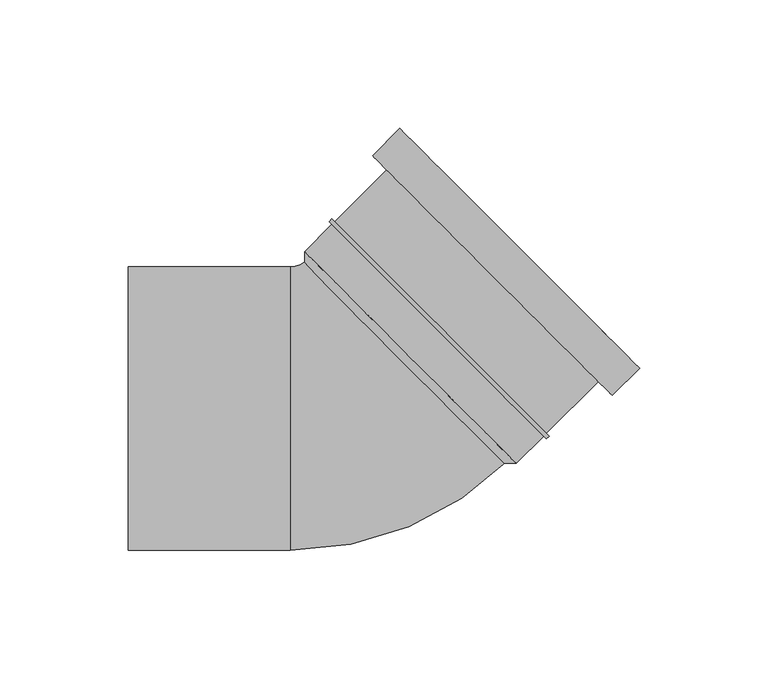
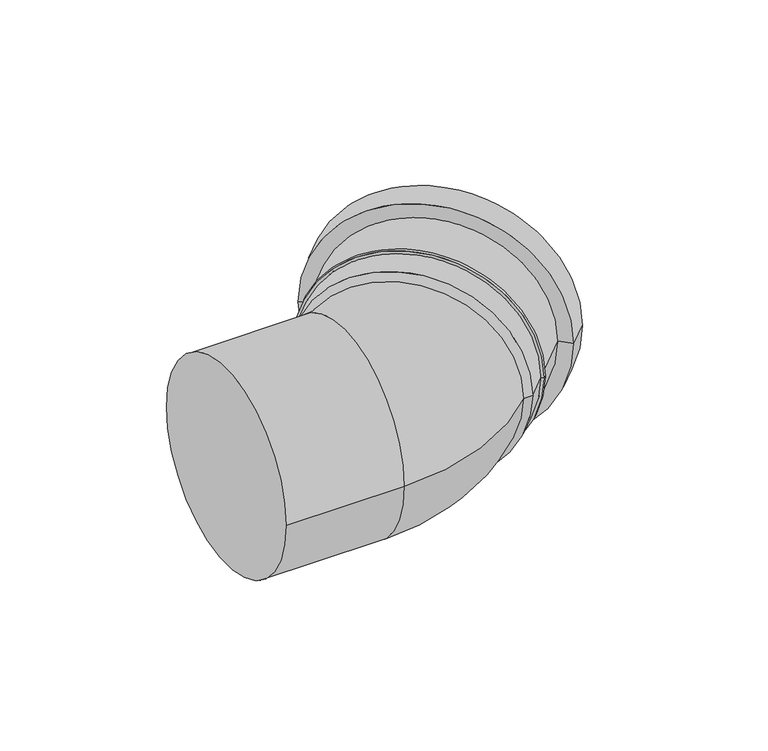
"""IFC4 building model written with IfcOpenShell, lengths in millimetres: pipe fitting geometry, UN_PIF_PP bend S-Sp_SH_PipeLife : Black, var. DN/OD (max. ø125, nested)."""

from ifc_helpers import new_model, si_unit, point, frame, origin, place, context, project, spatial, polyline, circle_curve, ellipse_curve, trimmed, source, transform, mapped, element, save
from ifc_brep_helpers import plane_surface, cylinder_surface, revolved_surface, advanced_brep


def pipe_fitting_78789ada(model_context):
    return source(origin(), model_context, "Body", "AdvancedBrep", [
        advanced_brep(
        [(56.3564105, -21.4253355, 0.0), (-21.4253355, 56.3564105, 0.0), (-21.4253355, 61.0233152, 0.0), (61.0233152, -21.4253355, 0.0), (109.0358657, 15.6977705, 0.0), (15.6977705, 109.0358657, 0.0), (23.4759451, 101.2576911, 0.0), (101.2576911, 23.4759451, 0.0), (98.3939086, 5.0558135, 0.0), (5.0558135, 98.3939086, 0.0), (92.9491864, 10.5005357, 0.0), (10.5005357, 92.9491864, 0.0), (72.7612878, -9.6873629, 0.0), (-9.6873629, 72.7612878, 0.0), (73.8573033, -10.7833784, 0.0), (-10.7833784, 73.8573033, 0.0), (72.7612878, -11.8793939, 0.0), (-11.8793939, 72.7612878, 0.0), (71.6652723, -10.7833784, 0.0), (-10.7833784, 71.6652723, 0.0)],
        [
            (0, 1, circle_curve(frame((17.4655375, 17.4655375, 0.0), z_axis=(0.707106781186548, 0.707106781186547, 0.0), x_axis=(-0.7071067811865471, 0.7071067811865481, 0.0)), 55.0)),
            (1, 2),
            (2, 3, circle_curve(frame((19.7989899, 19.7989899, 0.0), z_axis=(-0.707106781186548, -0.707106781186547, 0.0), x_axis=(-0.7071067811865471, 0.7071067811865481, 0.0)), 58.3)),
            (3, 0),
            (1, 0, circle_curve(frame((17.4655375, 17.4655375, 0.0), z_axis=(0.707106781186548, 0.707106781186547, 0.0), x_axis=(-0.7071067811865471, 0.7071067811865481, 0.0)), 55.0)),
            (3, 2, circle_curve(frame((19.7989899, 19.7989899, 0.0), z_axis=(-0.707106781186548, -0.707106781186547, 0.0), x_axis=(-0.7071067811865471, 0.7071067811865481, 0.0)), 58.3)),
            (4, 5, circle_curve(frame((62.3668181, 62.3668181, 0.0), z_axis=(0.707106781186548, 0.707106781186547, 0.0), x_axis=(-0.7071067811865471, 0.7071067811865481, 0.0)), 66.0)),
            (5, 6),
            (6, 7, circle_curve(frame((62.3668181, 62.3668181, 0.0), z_axis=(-0.707106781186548, -0.707106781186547, 0.0), x_axis=(-0.7071067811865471, 0.7071067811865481, 0.0)), 55.0)),
            (7, 4),
            (5, 4, circle_curve(frame((62.3668181, 62.3668181, 0.0), z_axis=(0.707106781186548, 0.707106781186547, 0.0), x_axis=(-0.7071067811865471, 0.7071067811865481, 0.0)), 66.0)),
            (7, 6, circle_curve(frame((62.3668181, 62.3668181, 0.0), z_axis=(-0.707106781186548, -0.707106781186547, 0.0), x_axis=(-0.7071067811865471, 0.7071067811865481, 0.0)), 55.0)),
            (8, 9, circle_curve(frame((51.724861, 51.724861, 0.0), z_axis=(0.707106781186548, 0.707106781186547, 0.0), x_axis=(-0.7071067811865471, 0.7071067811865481, 0.0)), 66.0)),
            (9, 5),
            (4, 8),
            (9, 8, circle_curve(frame((51.724861, 51.724861, 0.0), z_axis=(0.707106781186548, 0.707106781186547, 0.0), x_axis=(-0.7071067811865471, 0.7071067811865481, 0.0)), 66.0)),
            (10, 11, circle_curve(frame((51.724861, 51.724861, 0.0), z_axis=(0.707106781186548, 0.707106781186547, 0.0), x_axis=(-0.7071067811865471, 0.7071067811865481, 0.0)), 58.3)),
            (11, 9),
            (8, 10),
            (11, 10, circle_curve(frame((51.724861, 51.724861, 0.0), z_axis=(0.707106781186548, 0.707106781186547, 0.0), x_axis=(-0.7071067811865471, 0.7071067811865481, 0.0)), 58.3)),
            (12, 13, circle_curve(frame((31.5369624, 31.5369624, 0.0), z_axis=(0.707106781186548, 0.707106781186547, 0.0), x_axis=(-0.7071067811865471, 0.7071067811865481, 0.0)), 58.3)),
            (13, 11),
            (10, 12),
            (13, 12, circle_curve(frame((31.5369624, 31.5369624, 0.0), z_axis=(0.707106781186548, 0.707106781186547, 0.0), x_axis=(-0.7071067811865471, 0.7071067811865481, 0.0)), 58.3)),
            (14, 15, circle_curve(frame((31.5369624, 31.5369624, 0.0), z_axis=(0.707106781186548, 0.707106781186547, 0.0), x_axis=(-0.7071067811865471, 0.7071067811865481, 0.0)), 59.85)),
            (15, 13),
            (12, 14),
            (15, 14, circle_curve(frame((31.5369624, 31.5369624, 0.0), z_axis=(0.707106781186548, 0.707106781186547, 0.0), x_axis=(-0.7071067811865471, 0.7071067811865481, 0.0)), 59.85)),
            (16, 17, circle_curve(frame((30.4409469, 30.4409469, 0.0), z_axis=(0.707106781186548, 0.707106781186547, 0.0), x_axis=(-0.7071067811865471, 0.7071067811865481, 0.0)), 59.85)),
            (17, 15),
            (14, 16),
            (17, 16, circle_curve(frame((30.4409469, 30.4409469, 0.0), z_axis=(0.707106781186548, 0.707106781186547, 0.0), x_axis=(-0.7071067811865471, 0.7071067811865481, 0.0)), 59.85)),
            (18, 19, circle_curve(frame((30.4409469, 30.4409469, 0.0), z_axis=(0.707106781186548, 0.707106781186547, 0.0), x_axis=(-0.7071067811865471, 0.7071067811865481, 0.0)), 58.3)),
            (19, 17),
            (16, 18),
            (19, 18, circle_curve(frame((30.4409469, 30.4409469, 0.0), z_axis=(0.707106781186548, 0.707106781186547, 0.0), x_axis=(-0.7071067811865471, 0.7071067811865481, 0.0)), 58.3)),
            (2, 19),
            (18, 3),
            (6, 1),
            (0, 7),
        ],
        [
            revolved_surface(polyline([(-21.4253355, 61.0233152, 0.0), (-21.4253355, 56.3564105, 0.0)]), (62.3668181, 62.3668181, 0.0), (-0.7071067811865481, -0.7071067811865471, 0.0)),
            plane_surface(frame((62.3668181, 62.3668181, 0.0), z_axis=(0.707106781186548, 0.707106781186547, 0.0), x_axis=(-0.707106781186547, 0.707106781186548, 0.0))),
            cylinder_surface(frame((62.3668181, 62.3668181, 0.0), z_axis=(-0.7071067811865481, -0.7071067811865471, 0.0), x_axis=(-0.7071067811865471, 0.7071067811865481, 0.0)), 66.0),
            plane_surface(frame((51.724861, 51.724861, 0.0), z_axis=(-0.707106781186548, -0.707106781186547, 0.0), x_axis=(-0.707106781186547, 0.707106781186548, 0.0))),
            cylinder_surface(frame((62.3668181, 62.3668181, 0.0), z_axis=(-0.7071067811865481, -0.7071067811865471, 0.0), x_axis=(-0.7071067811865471, 0.7071067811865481, 0.0)), 58.3),
            plane_surface(frame((31.5369624, 31.5369624, 0.0), z_axis=(0.707106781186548, 0.707106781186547, 0.0), x_axis=(-0.707106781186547, 0.707106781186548, 0.0))),
            cylinder_surface(frame((62.3668181, 62.3668181, 0.0), z_axis=(-0.7071067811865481, -0.7071067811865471, 0.0), x_axis=(-0.7071067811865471, 0.7071067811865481, 0.0)), 59.85),
            plane_surface(frame((30.4409469, 30.4409469, 0.0), z_axis=(-0.707106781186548, -0.707106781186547, 0.0), x_axis=(-0.707106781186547, 0.707106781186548, 0.0))),
            revolved_surface(polyline([(-21.42533546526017, 56.35641046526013, 0.0), (23.475945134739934, 101.25769106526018, 0.0)]), (62.3668181, 62.3668181, 0.0), (-0.7071067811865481, -0.7071067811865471, 0.0)),
        ],
        [
            (0, [[1, 2, 3, 4]]),
            (0, [[5, -4, 6, -2]]),
            (1, [[7, 8, 9, 10]]),
            (1, [[11, -10, 12, -8]]),
            (2, [[13, 14, -7, 15]]),
            (2, [[16, -15, -11, -14]]),
            (3, [[17, 18, -13, 19]]),
            (3, [[20, -19, -16, -18]]),
            (4, [[21, 22, -17, 23]]),
            (4, [[24, -23, -20, -22]]),
            (5, [[25, 26, -21, 27]]),
            (5, [[28, -27, -24, -26]]),
            (6, [[29, 30, -25, 31]]),
            (6, [[32, -31, -28, -30]]),
            (7, [[33, 34, -29, 35]]),
            (7, [[36, -35, -32, -34]]),
            (4, [[-3, 37, -33, 38]]),
            (4, [[-6, -38, -36, -37]]),
            (8, [[-9, 39, -1, 40]]),
            (8, [[-12, -40, -5, -39]]),
        ],
    ),
        advanced_brep(
        [(-90.0, -55.2, 0.0), (-90.0, 55.2, 0.0), (-27.0, -55.2, 0.0), (-27.0, 55.2, 0.0), (-19.9404112, 58.1241774, 0.0), (58.1241774, -19.9404112, 0.0), (58.8312842, -19.2333044, 0.0), (-19.2333044, 58.8312842, 0.0)],
        [
            (0, 1, circle_curve(frame((-90.0, 0.0, 0.0), z_axis=(-1.0, 0.0, 0.0), x_axis=(0.0, 1.0, 0.0)), 55.2)),
            (1, 0, circle_curve(frame((-90.0, 0.0, 0.0), z_axis=(-1.0, 0.0, 0.0), x_axis=(0.0, 1.0, 0.0)), 55.2)),
            (0, 2),
            (2, 3, circle_curve(frame((-27.0, 0.0, 0.0), z_axis=(-1.0, 0.0, 0.0), x_axis=(0.0, 1.0, 0.0)), 55.2)),
            (3, 1),
            (3, 2, circle_curve(frame((-27.0, 0.0, 0.0), z_axis=(-1.0, 0.0, 0.0), x_axis=(0.0, 1.0, 0.0)), 55.2)),
            (4, 3, circle_curve(frame((-27.0, 65.1837662, 0.0), z_axis=(0.0, 0.0, -1.0), x_axis=(0.0, -1.0, 0.0)), 9.9837662)),
            (2, 5, circle_curve(frame((-27.0, 65.1837662, 0.0), z_axis=(0.0, 0.0, 1.0), x_axis=(0.0, -1.0, 0.0)), 120.3837662)),
            (5, 4, circle_curve(frame((19.0918831, 19.0918831, 0.0), z_axis=(-0.7071067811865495, -0.7071067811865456, 0.0), x_axis=(-0.7071067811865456, 0.7071067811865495, 0.0)), 55.2)),
            (4, 5, circle_curve(frame((19.0918831, 19.0918831, 0.0), z_axis=(-0.7071067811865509, -0.7071067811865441, 0.0), x_axis=(-0.7071067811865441, 0.7071067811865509, 0.0)), 55.2)),
            (6, 7, circle_curve(frame((19.7989899, 19.7989899, 0.0), z_axis=(0.7071067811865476, 0.7071067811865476, 0.0), x_axis=(-0.7071067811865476, 0.7071067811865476, 0.0)), 55.2)),
            (7, 6, circle_curve(frame((19.7989899, 19.7989899, 0.0), z_axis=(0.7071067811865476, 0.7071067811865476, 0.0), x_axis=(-0.7071067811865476, 0.7071067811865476, 0.0)), 55.2)),
            (5, 6),
            (7, 4),
        ],
        [
            plane_surface(frame((-90.0, 0.0, 0.0), z_axis=(-1.0, 0.0, 0.0), x_axis=(0.0, 0.0, 1.0))),
            cylinder_surface(frame((-90.0, 0.0, 0.0), z_axis=(-1.0, 0.0, 0.0), x_axis=(0.0, 1.0, 0.0)), 55.2),
            revolved_surface(trimmed(ellipse_curve(frame((-27.0, 0.0, 0.0), z_axis=(-1.0, 0.0, 0.0), x_axis=(0.0, 1.0, 0.0)), 55.2, 55.2), [point((-27.0, -55.2, 0.0))], [point((-27.0, 55.2, 0.0))], True, "CARTESIAN"), (-27.0, 65.1837662, 0.0), (0.0, 0.0, 1.0)),
            revolved_surface(trimmed(ellipse_curve(frame((-27.0, 0.0, 0.0), z_axis=(-1.0, 0.0, 0.0), x_axis=(0.0, 1.0, 0.0)), 55.2, 55.2), [point((-27.0, 55.2, 0.0))], [point((-27.0, -55.2, 0.0))], True, "CARTESIAN"), (-27.0, 65.1837662, 0.0), (0.0, 0.0, 1.0)),
            plane_surface(frame((19.7989899, 19.7989899, 0.0), z_axis=(0.7071067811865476, 0.7071067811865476, 0.0), x_axis=(0.0, 0.0, 1.0))),
            cylinder_surface(frame((19.0918831, 19.0918831, 0.0), z_axis=(-0.7071067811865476, -0.7071067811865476, 0.0), x_axis=(-0.7071067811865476, 0.7071067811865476, 0.0)), 55.2),
        ],
        [
            (0, [[1, 2]]),
            (1, [[-1, 3, 4, 5]]),
            (1, [[-2, -5, 6, -3]]),
            (2, [[7, -4, 8, 9]]),
            (3, [[-8, -6, -7, 10]]),
            (4, [[11, 12]]),
            (5, [[-9, 13, -12, 14]]),
            (5, [[-10, -14, -11, -13]]),
        ],
    ),
    ])


if __name__ == "__main__":
    model = new_model("IFC4")
    model_context = context("Model", 3, world=origin())
    ifc_project = project(units=[si_unit("LENGTHUNIT", "METRE", prefix="MILLI")], contexts=[model_context])
    site = spatial("IfcSite", under=ifc_project)
    building = spatial("IfcBuilding", under=site)
    placement = place(None, origin())
    pipe_fitting_shape = pipe_fitting_78789ada(model_context)
    element("IfcPipeFitting", 1, ObjectType="UN_PIF_PP bend S-Sp_SH_PipeLife : Black, var. DN/OD (max. ø125, nested)", at=placement, inside=building, context=model_context, shape_type="MappedRepresentation", body=[
        mapped(pipe_fitting_shape, transform((0.0, 0.0, 0.0), x_axis=(1.0, 0.0, 0.0), y_axis=(0.0, 1.0, 0.0), z_axis=(0.0, 0.0, 1.0))),
    ])
    save(model, "model.ifc")
